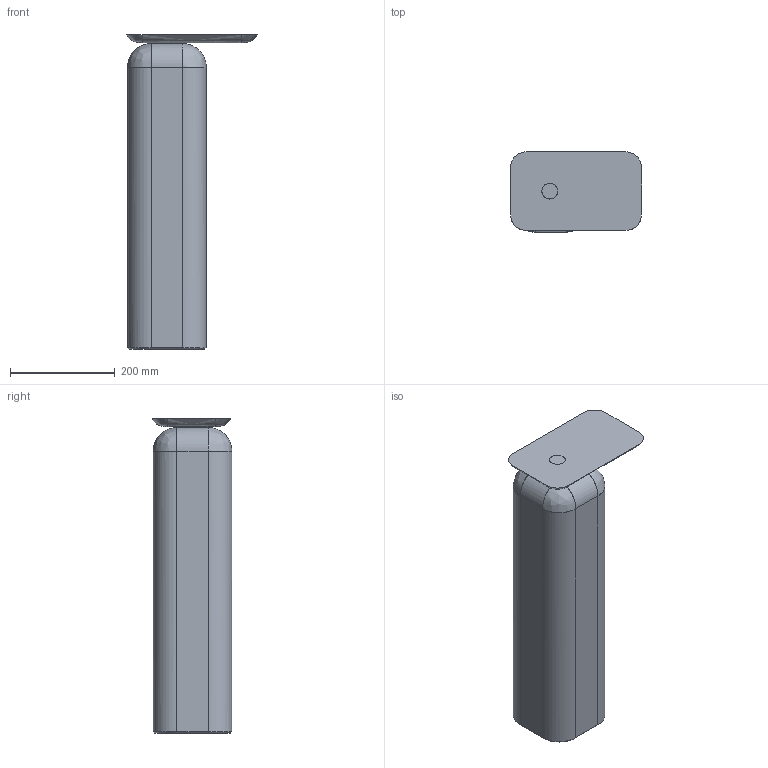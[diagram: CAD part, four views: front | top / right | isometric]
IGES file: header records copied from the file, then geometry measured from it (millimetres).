
Global section: file name: C:\Users\Timo Mikkonen\Desktop\Nikari 3d. tiedostot rfa\COFFEE TABLES\iges\April 3 Coffee Table 215x150 H600.igs; native system: Rhinoceros ( Sep  8 2025 ); preprocessor: Trout Lake IGES 012 Sep  8 2025; date: 250924.063656; units: millimetre
Bounding box: 250 x 152.12 x 600 mm (x, y, z)
Surface area: 575937.9 mm2 (no closed solid volume)
Topology: 0 solids, 0 shells, 54 faces, 232 edges, 231 vertices
Faces by surface type: bspline 54
